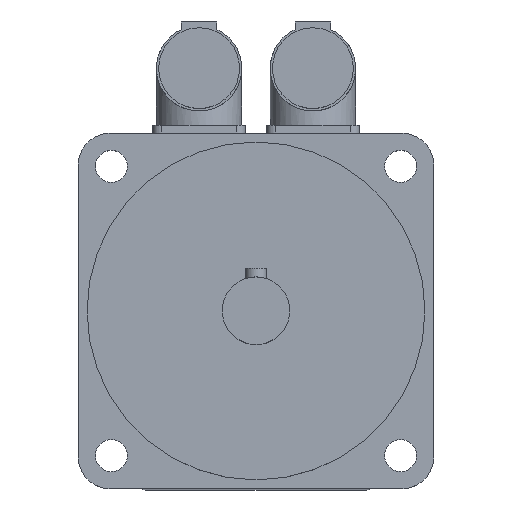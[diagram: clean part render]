
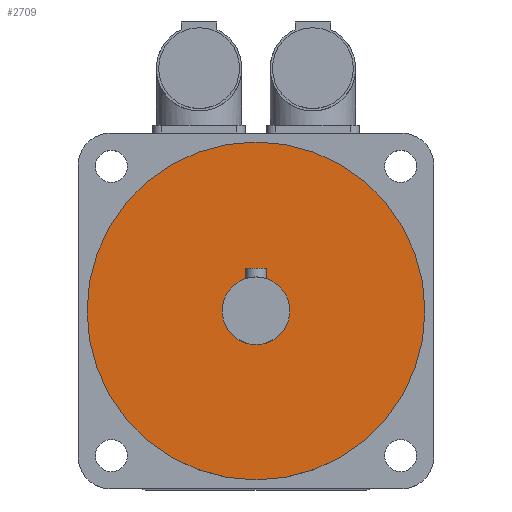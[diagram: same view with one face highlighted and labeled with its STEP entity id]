
A CAD part, top view. The second image highlights one B-rep face of the part: STEP entity #2709.
In plain terms, the highlighted planar face has unit normal (0, 0, 1).
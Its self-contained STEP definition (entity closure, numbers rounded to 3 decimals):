
#44=FACE_BOUND('',#455,.T.);
#72=CIRCLE('',#2874,9.5);
#73=CIRCLE('',#2877,47.5);
#289=FACE_OUTER_BOUND('',#454,.T.);
#454=EDGE_LOOP('',(#1842));
#455=EDGE_LOOP('',(#1843));
#1150=VERTEX_POINT('',#4096);
#1151=VERTEX_POINT('',#4100);
#1420=EDGE_CURVE('',#1150,#1150,#72,.T.);
#1421=EDGE_CURVE('',#1151,#1151,#73,.T.);
#1842=ORIENTED_EDGE('',*,*,#1421,.T.);
#1843=ORIENTED_EDGE('',*,*,#1420,.T.);
#2629=PLANE('',#2879);
#2709=ADVANCED_FACE('',(#289,#44),#2629,.F.);
#2874=AXIS2_PLACEMENT_3D('',#4097,#3197,#3198);
#2877=AXIS2_PLACEMENT_3D('',#4101,#3203,#3204);
#2879=AXIS2_PLACEMENT_3D('',#4104,#3207,#3208);
#3197=DIRECTION('center_axis',(0.,0.,-1.));
#3198=DIRECTION('ref_axis',(-1.,0.,0.));
#3203=DIRECTION('center_axis',(0.,0.,
1.));
#3204=DIRECTION('ref_axis',(-1.,0.,0.));
#3207=DIRECTION('center_axis',(0.,0.,-1.));
#3208=DIRECTION('ref_axis',(-1.,0.,0.));
#4096=CARTESIAN_POINT('',(9.5,0.,174.));
#4097=CARTESIAN_POINT('Origin',(0.,0.,
174.));
#4100=CARTESIAN_POINT('',(47.5,0.,174.));
#4101=CARTESIAN_POINT('Origin',(0.,0.,
174.));
#4104=CARTESIAN_POINT('Origin',(0.,0.,
174.));
